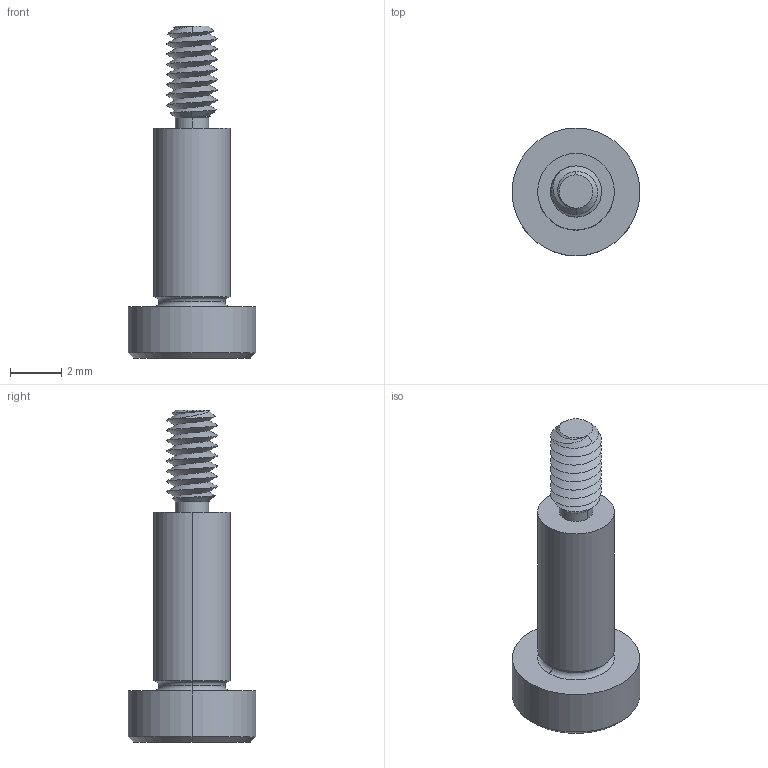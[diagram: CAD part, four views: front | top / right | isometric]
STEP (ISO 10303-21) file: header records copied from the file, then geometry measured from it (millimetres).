
FILE_DESCRIPTION (( 'STEP AP203' ), '1' );
FILE_NAME ('P0130.030-007-B2.step', '2021-11-09T20:54:52', ( '' ), ( '' ), 'SwSTEP 2.0', 'SolidWorks 2019', '' );
FILE_SCHEMA (( 'CONFIG_CONTROL_DESIGN' ));
Length unit declared in the file: millimetre
Products named in the file (1): P0130.030-007-B2
Bounding box: 5 x 5 x 13 mm (x, y, z)
Volume: 92.8 mm3; surface area: 182.1 mm2
Topology: 1 solids, 1 shells, 58 faces, 136 edges, 81 vertices
Faces by surface type: cylinder 22, plane 16, cone 14, torus 4, bspline 2
Entity records: 2452 total; most frequent: CARTESIAN_POINT 1166, ORIENTED_EDGE 268, DIRECTION 241, EDGE_CURVE 134, AXIS2_PLACEMENT_3D 97, VERTEX_POINT 81, EDGE_LOOP 61, ADVANCED_FACE 58
